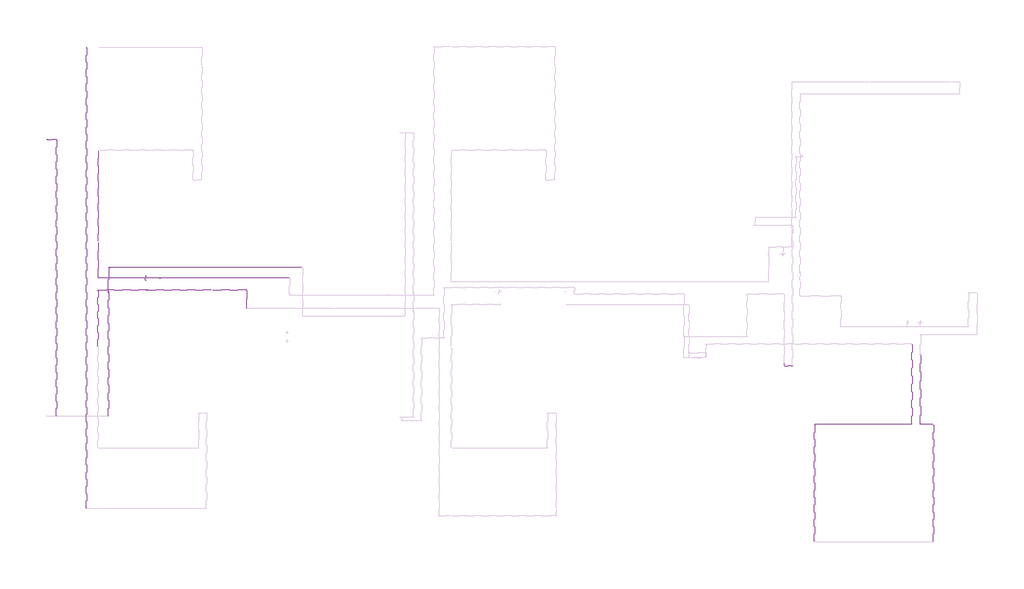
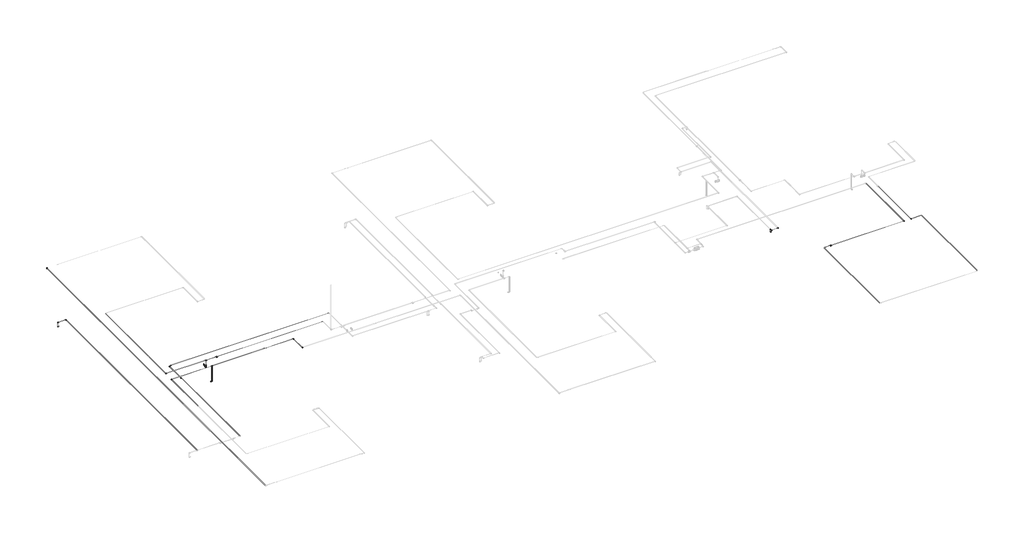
# One storey, part 2 of 6: 35 cable carrier segments, 23 cable carrier fittings, 3 alarms.
"""IFC4 building model written with IfcOpenShell, lengths in millimetres."""

from ifc_helpers import new_model, si_unit, point, frame, frame_2d, origin, place, context, project, spatial, circle_curve, trimmed, segment, composite_curve, outline, extrude, transform, mapped, element, save
from ifc_brep_helpers import plane_surface, cylinder_surface, advanced_brep
from components import alarm_4b7e8fd8, alarm_a2247946, cable_carrier_fitting_69f1a801, cable_carrier_fitting_8122f9af, cable_carrier_fitting_8fd13dfc

model = new_model("IFC4")

# Units and contexts
model_context = context("Model", 3, world=origin())
ifc_project = project(units=[si_unit("LENGTHUNIT", "METRE", prefix="MILLI")], contexts=[model_context])

# Site, building, storey
site = spatial("IfcSite", under=ifc_project)
building = spatial("IfcBuilding", under=site)
storey = spatial("IfcBuildingStorey", under=building, Name="Подвальный этаж", Elevation=-3000.0)

# Alarms
placement = place(None, origin())
alarm_shape = alarm_4b7e8fd8(model_context)
element("IfcAlarm", 1, ObjectType="RBZ_Оповещатель_Световой_Рубеж_ОПОП1-R3(грань) : ОПОП 1-R3 \"Выход\"", at=placement, inside=storey, context=model_context, shape_type="MappedRepresentation", body=[
    mapped(alarm_shape, transform((-31822.3240021, 5194.6370105, -700.0), x_axis=(0.0, -1.0, 0.0), y_axis=(0.0, 0.0, 1.0), z_axis=(-1.0, 0.0, 0.0))),
])
alarm_2_shape = alarm_a2247946(model_context)
element("IfcAlarm", 2, ObjectType="RBZ_ИзоляторШлейфа_Рубеж_ИЗ-1_прот.R3(плоскость) : ИЗ-1 прот.R3", at=placement, inside=storey, context=model_context, shape_type="MappedRepresentation", body=[
    mapped(alarm_2_shape, transform((-30952.3240021, 5194.6370105, -299.95), x_axis=(1.0, 0.0, 0.0), y_axis=(0.0, 1.0, 0.0), z_axis=(0.0, 0.0, 1.0))),
])
element("IfcAlarm", 3, ObjectType="RBZ_ИзоляторШлейфа_Рубеж_ИЗ-1_прот.R3(плоскость) : ИЗ-1 прот.R3", at=placement, inside=storey, context=model_context, shape_type="MappedRepresentation", body=[
    mapped(alarm_2_shape, transform((9645.1759979, -3775.3629895, -299.95), x_axis=(1.0, 0.0, 0.0), y_axis=(0.0, 1.0, 0.0), z_axis=(0.0, 0.0, 1.0))),
])

# Cable carrier fittings
cable_carrier_fitting_shape = cable_carrier_fitting_69f1a801(model_context)
element("IfcCableCarrierFitting", 4, ObjectType="ADSK_Поворот_Минимальный размер : Неспецифицируемый", at=placement, inside=storey, context=model_context, shape_type="MappedRepresentation", body=[
    mapped(cable_carrier_fitting_shape, transform((15115.1759979, -3775.3629895, -310.7), x_axis=(1.0, 0.0, 0.0), y_axis=(0.0, 1.0, 0.0), z_axis=(0.0, 0.0, 1.0))),
])
element("IfcCableCarrierFitting", 5, ObjectType="ADSK_Поворот_Минимальный размер : Неспецифицируемый", at=placement, inside=storey, context=model_context, shape_type="MappedRepresentation", body=[
    mapped(cable_carrier_fitting_shape, transform((15629.9732726, -3775.3629895, -310.7), x_axis=(0.0, -1.0, 0.0), y_axis=(1.0, 0.0, 0.0), z_axis=(0.0, 0.0, 1.0))),
])
element("IfcCableCarrierFitting", 6, ObjectType="ADSK_Поворот_Минимальный размер : Неспецифицируемый", at=placement, inside=storey, context=model_context, shape_type="MappedRepresentation", body=[
    mapped(cable_carrier_fitting_shape, transform((-25639.8240021, 4454.6370105, -310.7), x_axis=(0.0, 1.0, 0.0), y_axis=(-1.0, 0.0, 0.0), z_axis=(0.0, 0.0, 1.0))),
])
element("IfcCableCarrierFitting", 7, ObjectType="ADSK_Поворот_Минимальный размер : Неспецифицируемый", at=placement, inside=storey, context=model_context, shape_type="MappedRepresentation", body=[
    mapped(cable_carrier_fitting_shape, transform((-25639.8240021, 3324.6370105, -310.7), x_axis=(0.0, -1.0, 0.0), y_axis=(1.0, 0.0, 0.0), z_axis=(0.0, 0.0, 1.0))),
])
element("IfcCableCarrierFitting", 8, ObjectType="ADSK_Поворот_Минимальный размер : Неспецифицируемый", at=placement, inside=storey, context=model_context, shape_type="MappedRepresentation", body=[
    mapped(cable_carrier_fitting_shape, transform((-31725.1241965, 4454.6370105, -1500.0), x_axis=(1.0, 0.0, 0.0), y_axis=(0.0, 0.0, 1.0), z_axis=(0.0, -1.0, 0.0))),
])
element("IfcCableCarrierFitting", 9, ObjectType="ADSK_Поворот_Минимальный размер : Неспецифицируемый", at=placement, inside=storey, context=model_context, shape_type="MappedRepresentation", body=[
    mapped(cable_carrier_fitting_shape, transform((-34750.048085, 4454.6370105, -310.7), x_axis=(-1.0, 0.0, 0.0), y_axis=(0.0, -1.0, 0.0), z_axis=(0.0, 0.0, 1.0))),
])
element("IfcCableCarrierFitting", 10, ObjectType="ADSK_Поворот_Минимальный размер : Неспецифицируемый", at=placement, inside=storey, context=model_context, shape_type="MappedRepresentation", body=[
    mapped(cable_carrier_fitting_shape, transform((-35461.3240021, 19322.1370105, -310.7000447), x_axis=(-0.9999999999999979, 0.0, -6.54321978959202e-08), y_axis=(0.0, -1.0, 0.0), z_axis=(-6.54321978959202e-08, 0.0, 0.9999999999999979))),
])
element("IfcCableCarrierFitting", 11, ObjectType="ADSK_Поворот_Минимальный размер : Неспецифицируемый", at=placement, inside=storey, context=model_context, shape_type="MappedRepresentation", body=[
    mapped(cable_carrier_fitting_shape, transform((-34732.3240021, 5194.6370105, -310.7), x_axis=(0.0, -1.0, 0.0), y_axis=(1.0, 0.0, 0.0), z_axis=(0.0, 0.0, 1.0))),
])
element("IfcCableCarrierFitting", 12, ObjectType="ADSK_Поворот_Минимальный размер : Неспецифицируемый", at=placement, inside=storey, context=model_context, shape_type="MappedRepresentation", body=[
    mapped(cable_carrier_fitting_shape, transform((-31725.1241965, 5194.6370105, -700.0), x_axis=(1.0, 0.0, 0.0), y_axis=(0.0, 0.0, 1.0), z_axis=(0.0, -1.0, 0.0))),
])
element("IfcCableCarrierFitting", 13, ObjectType="ADSK_Поворот_Минимальный размер : Неспецифицируемый", at=placement, inside=storey, context=model_context, shape_type="MappedRepresentation", body=[
    mapped(cable_carrier_fitting_shape, transform((-37889.5238077, 13664.6370105, -655.9740066), x_axis=(-1.0, 0.0, 0.0), y_axis=(0.0, 0.0, 1.0), z_axis=(0.0, 1.0, 0.0))),
])
element("IfcCableCarrierFitting", 14, ObjectType="ADSK_Поворот_Минимальный размер : Неспецифицируемый", at=placement, inside=storey, context=model_context, shape_type="MappedRepresentation", body=[
    mapped(cable_carrier_fitting_shape, transform((-37889.5238077, 13664.6370105, -310.7), x_axis=(0.0, 0.0, 1.0), y_axis=(1.0, 0.0, 0.0), z_axis=(0.0, 1.0, 0.0))),
])
element("IfcCableCarrierFitting", 15, ObjectType="ADSK_Поворот_Минимальный размер : Неспецифицируемый", at=placement, inside=storey, context=model_context, shape_type="MappedRepresentation", body=[
    mapped(cable_carrier_fitting_shape, transform((-37292.3240021, 13664.6370105, -310.7), x_axis=(0.0, 1.0, 0.0), y_axis=(-1.0, 0.0, 0.0), z_axis=(0.0, 0.0, 1.0))),
])
element("IfcCableCarrierFitting", 16, ObjectType="ADSK_Поворот_Минимальный размер : Неспецифицируемый", at=placement, inside=storey, context=model_context, shape_type="MappedRepresentation", body=[
    mapped(cable_carrier_fitting_shape, transform((-34102.3240021, 5834.6370105, -350.0), x_axis=(-1.0, 0.0, 0.0), y_axis=(0.0, -1.0, 0.0), z_axis=(0.0, 0.0, 1.0))),
])
element("IfcCableCarrierFitting", 17, ObjectType="ADSK_Поворот_Минимальный размер : Неспецифицируемый", at=placement, inside=storey, context=model_context, shape_type="MappedRepresentation", body=[
    mapped(cable_carrier_fitting_shape, transform((7287.6759979, -78.1631839, -655.9740066), x_axis=(0.0, 1.0, 0.0), y_axis=(0.0, 0.0, 1.0), z_axis=(1.0, 0.0, 0.0))),
])
element("IfcCableCarrierFitting", 18, ObjectType="ADSK_Поворот_Минимальный размер : Неспецифицируемый", at=placement, inside=storey, context=model_context, shape_type="MappedRepresentation", body=[
    mapped(cable_carrier_fitting_shape, transform((7287.6759979, -78.1631839, -458.0), x_axis=(0.0, 0.0, 1.0), y_axis=(0.0, 1.0, 0.0), z_axis=(-1.0, 0.0, 0.0))),
])
element("IfcCableCarrierFitting", 19, ObjectType="ADSK_Поворот_Минимальный размер : Неспецифицируемый", at=placement, inside=storey, context=model_context, shape_type="MappedRepresentation", body=[
    mapped(cable_carrier_fitting_shape, transform((7287.6759979, -206.0144167, -458.0), x_axis=(0.0, 0.0, 1.0), y_axis=(1.0, 0.0, 0.0), z_axis=(0.0, 1.0, 0.0))),
])
element("IfcCableCarrierFitting", 20, ObjectType="ADSK_Поворот_Минимальный размер : Неспецифицируемый", at=placement, inside=storey, context=model_context, shape_type="MappedRepresentation", body=[
    mapped(cable_carrier_fitting_shape, transform((7787.6759979, -206.0144167, -458.0), x_axis=(1.0, 0.0, 0.0), y_axis=(0.0, 1.0, 0.0), z_axis=(0.0, 0.0, 1.0))),
])
cable_carrier_fitting_2_shape = cable_carrier_fitting_8122f9af(model_context)
element("IfcCableCarrierFitting", 21, ObjectType="ADSK_Поворот_Минимальный размер : Неспецифицируемый", at=placement, inside=storey, context=model_context, shape_type="MappedRepresentation", body=[
    mapped(cable_carrier_fitting_2_shape, transform((-34102.3240021, 4307.1370105, -310.7), x_axis=(0.0, 1.0, 0.0), y_axis=(0.0, 0.0, -1.0), z_axis=(-1.0, 0.0, 0.0))),
])
element("IfcCableCarrierFitting", 22, ObjectType="ADSK_Поворот_Минимальный размер : Неспецифицируемый", at=placement, inside=storey, context=model_context, shape_type="MappedRepresentation", body=[
    mapped(cable_carrier_fitting_2_shape, transform((-34102.3240021, 4346.4370105, -350.0), x_axis=(0.0, 0.7071067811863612, -0.707106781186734), y_axis=(0.0, 0.707106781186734, 0.7071067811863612), z_axis=(1.0, 0.0, 0.0))),
])
element("IfcCableCarrierFitting", 23, ObjectType="ADSK_Поворот_Минимальный размер : Неспецифицируемый", at=placement, inside=storey, context=model_context, shape_type="MappedRepresentation", body=[
    mapped(cable_carrier_fitting_2_shape, transform((-34050.2441965, 5834.6370105, -350.0), x_axis=(1.0, 0.0, 0.0), y_axis=(0.0, 0.0, 1.0), z_axis=(0.0, -1.0, 0.0))),
])
element("IfcCableCarrierFitting", 24, ObjectType="ADSK_Поворот_Минимальный размер : Неспецифицируемый", at=placement, inside=storey, context=model_context, shape_type="MappedRepresentation", body=[
    mapped(cable_carrier_fitting_2_shape, transform((-34010.9441965, 5834.6370105, -310.7), x_axis=(0.7071067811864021, 0.0, 0.707106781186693), y_axis=(0.707106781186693, 0.0, -0.7071067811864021), z_axis=(0.0, 1.0, 0.0))),
])
cable_carrier_fitting_3_shape = cable_carrier_fitting_8fd13dfc(model_context)
element("IfcCableCarrierFitting", 25, ObjectType="ADSK_Тройник : ПВХ", at=placement, inside=storey, context=model_context, shape_type="MappedRepresentation", body=[
    mapped(cable_carrier_fitting_3_shape, transform((-31725.1241965, 4454.6370105, -310.7), x_axis=(1.0, 0.0, 0.0), y_axis=(0.0, 0.0, 1.0), z_axis=(0.0, -1.0, 0.0))),
])
element("IfcCableCarrierFitting", 26, ObjectType="ADSK_Тройник : ПВХ", at=placement, inside=storey, context=model_context, shape_type="MappedRepresentation", body=[
    mapped(cable_carrier_fitting_3_shape, transform((-31725.1241965, 5194.6370105, -310.7), x_axis=(1.0, 0.0, 0.0), y_axis=(0.0, 0.0, 1.0), z_axis=(0.0, -1.0, 0.0))),
])

# Cable carrier segments
element("IfcCableCarrierSegment", 27, ObjectType="Гофрированная труба", at=placement, inside=storey, context=model_context, shape_type="SweptSolid", body=[
    extrude(outline(composite_curve([segment(trimmed(circle_curve(frame_2d((4454.6370105, -310.7)), 10.0), [point((4444.6370105, -310.7))], [point((4454.6370105, -300.7))], False, "CARTESIAN"), True, "CONTINUOUS"), segment(trimmed(circle_curve(frame_2d((4454.6370105, -310.7)), 10.0), [point((4454.6370105, -300.7))], [point((4464.6370105, -310.7))], False, "CARTESIAN"), True, "CONTINUOUS"), segment(trimmed(circle_curve(frame_2d((4454.6370105, -310.7)), 10.0), [point((4464.6370105, -310.7))], [point((4454.6370105, -320.7))], False, "CARTESIAN"), True, "CONTINUOUS"), segment(trimmed(circle_curve(frame_2d((4454.6370105, -310.7)), 10.0), [point((4454.6370105, -320.7))], [point((4444.6370105, -310.7))], False, "CARTESIAN"), True, "CONTINUOUS")], self_intersect=False)), frame((-34729.048085, 0.0, 0.0), z_axis=(1.0, 0.0, 0.0), x_axis=(0.0, 1.0, 0.0)), (0.0, 0.0, 1.0), 2973.9238885),
])
element("IfcCableCarrierSegment", 28, ObjectType="Гофрированная труба", at=placement, inside=storey, context=model_context, shape_type="SweptSolid", body=[
    extrude(outline(composite_curve([segment(trimmed(circle_curve(frame_2d((-310.7, -34750.048085)), 10.0), [point((-310.7, -34760.048085))], [point((-320.7, -34750.048085))], False, "CARTESIAN"), True, "CONTINUOUS"), segment(trimmed(circle_curve(frame_2d((-310.7, -34750.048085)), 10.0), [point((-320.7, -34750.048085))], [point((-310.7, -34740.048085))], False, "CARTESIAN"), True, "CONTINUOUS"), segment(trimmed(circle_curve(frame_2d((-310.7, -34750.048085)), 10.0), [point((-310.7, -34740.048085))], [point((-300.7, -34750.048085))], False, "CARTESIAN"), True, "CONTINUOUS"), segment(trimmed(circle_curve(frame_2d((-310.7, -34750.048085)), 10.0), [point((-300.7, -34750.048085))], [point((-310.7, -34760.048085))], False, "CARTESIAN"), True, "CONTINUOUS")], self_intersect=False)), frame((0.0, 991.1370105, 0.0), z_axis=(0.0, 1.0, 0.0), x_axis=(0.0, 0.0, 1.0)), (0.0, 0.0, 1.0), 3442.5),
])
element("IfcCableCarrierSegment", 29, ObjectType="Гофрированная труба", at=placement, inside=storey, context=model_context, shape_type="SweptSolid", body=[
    extrude(outline(composite_curve([segment(trimmed(circle_curve(frame_2d((-310.7, -34732.3240021)), 10.0), [point((-310.7, -34722.3240021))], [point((-300.7, -34732.3240021))], False, "CARTESIAN"), True, "CONTINUOUS"), segment(trimmed(circle_curve(frame_2d((-310.7, -34732.3240021)), 10.0), [point((-300.7, -34732.3240021))], [point((-310.7, -34742.3240021))], False, "CARTESIAN"), True, "CONTINUOUS"), segment(trimmed(circle_curve(frame_2d((-310.7, -34732.3240021)), 10.0), [point((-310.7, -34742.3240021))], [point((-320.7, -34732.3240021))], False, "CARTESIAN"), True, "CONTINUOUS"), segment(trimmed(circle_curve(frame_2d((-310.7, -34732.3240021)), 10.0), [point((-320.7, -34732.3240021))], [point((-310.7, -34722.3240021))], False, "CARTESIAN"), True, "CONTINUOUS")], self_intersect=False)), frame((0.0, 7459.1000551, 0.0), z_axis=(0.0, 1.0, 0.0), x_axis=(0.0, 0.0, 1.0)), (0.0, 0.0, 1.0), 5516.5369555),
])
element("IfcCableCarrierSegment", 30, ObjectType="Гофрированная труба", at=placement, inside=storey, context=model_context, shape_type="SweptSolid", body=[
    extrude(outline(composite_curve([segment(trimmed(circle_curve(frame_2d((-310.7, -34732.3240021)), 10.0), [point((-310.7, -34722.3240021))], [point((-300.7, -34732.3240021))], False, "CARTESIAN"), True, "CONTINUOUS"), segment(trimmed(circle_curve(frame_2d((-310.7, -34732.3240021)), 10.0), [point((-300.7, -34732.3240021))], [point((-310.7, -34742.3240021))], False, "CARTESIAN"), True, "CONTINUOUS"), segment(trimmed(circle_curve(frame_2d((-310.7, -34732.3240021)), 10.0), [point((-310.7, -34742.3240021))], [point((-320.7, -34732.3240021))], False, "CARTESIAN"), True, "CONTINUOUS"), segment(trimmed(circle_curve(frame_2d((-310.7, -34732.3240021)), 10.0), [point((-320.7, -34732.3240021))], [point((-310.7, -34722.3240021))], False, "CARTESIAN"), True, "CONTINUOUS")], self_intersect=False)), frame((0.0, 5215.6370105, 0.0), z_axis=(0.0, 1.0, 0.0), x_axis=(0.0, 0.0, 1.0)), (0.0, 0.0, 1.0), 2150.4630445),
])
element("IfcCableCarrierSegment", 31, ObjectType="Гофрированная труба", at=placement, inside=storey, context=model_context, shape_type="SweptSolid", body=[
    extrude(outline(composite_curve([segment(trimmed(circle_curve(frame_2d((5194.6370105, -310.7)), 10.0), [point((5204.6370105, -310.7))], [point((5194.6370105, -320.7))], False, "CARTESIAN"), True, "CONTINUOUS"), segment(trimmed(circle_curve(frame_2d((5194.6370105, -310.7)), 10.0), [point((5194.6370105, -320.7))], [point((5184.6370105, -310.7))], False, "CARTESIAN"), True, "CONTINUOUS"), segment(trimmed(circle_curve(frame_2d((5194.6370105, -310.7)), 10.0), [point((5184.6370105, -310.7))], [point((5194.6370105, -300.7))], False, "CARTESIAN"), True, "CONTINUOUS"), segment(trimmed(circle_curve(frame_2d((5194.6370105, -310.7)), 10.0), [point((5194.6370105, -300.7))], [point((5204.6370105, -310.7))], False, "CARTESIAN"), True, "CONTINUOUS")], self_intersect=False)), frame((-34711.3240021, 0.0, 0.0), z_axis=(1.0, 0.0, 0.0), x_axis=(0.0, 1.0, 0.0)), (0.0, 0.0, 1.0), 2956.1998056),
])
element("IfcCableCarrierSegment", 32, ObjectType="Гофрированная труба", at=placement, inside=storey, context=model_context, shape_type="SweptSolid", body=[
    extrude(outline(composite_curve([segment(trimmed(circle_curve(frame_2d((5194.6370105, -310.7)), 10.0), [point((5204.6370105, -310.7))], [point((5194.6370105, -320.7))], False, "CARTESIAN"), True, "CONTINUOUS"), segment(trimmed(circle_curve(frame_2d((5194.6370105, -310.7)), 10.0), [point((5194.6370105, -320.7))], [point((5184.6370105, -310.7))], False, "CARTESIAN"), True, "CONTINUOUS"), segment(trimmed(circle_curve(frame_2d((5194.6370105, -310.7)), 10.0), [point((5184.6370105, -310.7))], [point((5194.6370105, -300.7))], False, "CARTESIAN"), True, "CONTINUOUS"), segment(trimmed(circle_curve(frame_2d((5194.6370105, -310.7)), 10.0), [point((5194.6370105, -300.7))], [point((5204.6370105, -310.7))], False, "CARTESIAN"), True, "CONTINUOUS")], self_intersect=False)), frame((-30926.3240021, 0.0, 0.0), z_axis=(1.0, 0.0, 0.0), x_axis=(0.0, 1.0, 0.0)), (0.0, 0.0, 1.0), 7888.0),
])
element("IfcCableCarrierSegment", 33, ObjectType="Гофрированная труба", at=placement, inside=storey, context=model_context, shape_type="SweptSolid", body=[
    extrude(outline(composite_curve([segment(trimmed(circle_curve(frame_2d((-310.7, -25639.8240021)), 10.0), [point((-310.7, -25649.8240021))], [point((-320.7, -25639.8240021))], False, "CARTESIAN"), True, "CONTINUOUS"), segment(trimmed(circle_curve(frame_2d((-310.7, -25639.8240021)), 10.0), [point((-320.7, -25639.8240021))], [point((-310.7, -25629.8240021))], False, "CARTESIAN"), True, "CONTINUOUS"), segment(trimmed(circle_curve(frame_2d((-310.7, -25639.8240021)), 10.0), [point((-310.7, -25629.8240021))], [point((-300.7, -25639.8240021))], False, "CARTESIAN"), True, "CONTINUOUS"), segment(trimmed(circle_curve(frame_2d((-310.7, -25639.8240021)), 10.0), [point((-300.7, -25639.8240021))], [point((-310.7, -25649.8240021))], False, "CARTESIAN"), True, "CONTINUOUS")], self_intersect=False)), frame((0.0, 3345.6370105, 0.0), z_axis=(0.0, 1.0, 0.0), x_axis=(0.0, 0.0, 1.0)), (0.0, 0.0, 1.0), 1088.0),
])
element("IfcCableCarrierSegment", 34, ObjectType="Гофрированная труба", at=placement, inside=storey, context=model_context, shape_type="SweptSolid", body=[
    extrude(outline(composite_curve([segment(trimmed(circle_curve(frame_2d((4454.6370105, -310.7)), 10.0), [point((4464.6370105, -310.7))], [point((4454.6370105, -320.7))], False, "CARTESIAN"), True, "CONTINUOUS"), segment(trimmed(circle_curve(frame_2d((4454.6370105, -310.7)), 10.0), [point((4454.6370105, -320.7))], [point((4444.6370105, -310.7))], False, "CARTESIAN"), True, "CONTINUOUS"), segment(trimmed(circle_curve(frame_2d((4454.6370105, -310.7)), 10.0), [point((4444.6370105, -310.7))], [point((4454.6370105, -300.7))], False, "CARTESIAN"), True, "CONTINUOUS"), segment(trimmed(circle_curve(frame_2d((4454.6370105, -310.7)), 10.0), [point((4454.6370105, -300.7))], [point((4464.6370105, -310.7))], False, "CARTESIAN"), True, "CONTINUOUS")], self_intersect=False)), frame((-27715.7740021, 0.0, 0.0), z_axis=(1.0, 0.0, 0.0), x_axis=(0.0, 1.0, 0.0)), (0.0, 0.0, 1.0), 2054.95),
])
element("IfcCableCarrierSegment", 35, ObjectType="Гофрированная труба", at=placement, inside=storey, context=model_context, shape_type="SweptSolid", body=[
    extrude(outline(composite_curve([segment(trimmed(circle_curve(frame_2d((-3775.3629895, -310.7)), 10.0), [point((-3765.3629895, -310.7))], [point((-3775.3629895, -320.7))], False, "CARTESIAN"), True, "CONTINUOUS"), segment(trimmed(circle_curve(frame_2d((-3775.3629895, -310.7)), 10.0), [point((-3775.3629895, -320.7))], [point((-3785.3629895, -310.7))], False, "CARTESIAN"), True, "CONTINUOUS"), segment(trimmed(circle_curve(frame_2d((-3775.3629895, -310.7)), 10.0), [point((-3785.3629895, -310.7))], [point((-3775.3629895, -300.7))], False, "CARTESIAN"), True, "CONTINUOUS"), segment(trimmed(circle_curve(frame_2d((-3775.3629895, -310.7)), 10.0), [point((-3775.3629895, -300.7))], [point((-3765.3629895, -310.7))], False, "CARTESIAN"), True, "CONTINUOUS")], self_intersect=False)), frame((9194.1759979, 0.0, 0.0), z_axis=(1.0, 0.0, 0.0), x_axis=(0.0, 1.0, 0.0)), (0.0, 0.0, 1.0), 425.0),
])
element("IfcCableCarrierSegment", 36, ObjectType="Гофрированная труба", at=placement, inside=storey, context=model_context, shape_type="SweptSolid", body=[
    extrude(outline(composite_curve([segment(trimmed(circle_curve(frame_2d((-3775.3629895, -310.7)), 10.0), [point((-3785.3629895, -310.7))], [point((-3775.3629895, -300.7))], False, "CARTESIAN"), True, "CONTINUOUS"), segment(trimmed(circle_curve(frame_2d((-3775.3629895, -310.7)), 10.0), [point((-3775.3629895, -300.7))], [point((-3765.3629895, -310.7))], False, "CARTESIAN"), True, "CONTINUOUS"), segment(trimmed(circle_curve(frame_2d((-3775.3629895, -310.7)), 10.0), [point((-3765.3629895, -310.7))], [point((-3775.3629895, -320.7))], False, "CARTESIAN"), True, "CONTINUOUS"), segment(trimmed(circle_curve(frame_2d((-3775.3629895, -310.7)), 10.0), [point((-3775.3629895, -320.7))], [point((-3785.3629895, -310.7))], False, "CARTESIAN"), True, "CONTINUOUS")], self_intersect=False)), frame((9671.1759979, 0.0, 0.0), z_axis=(1.0, 0.0, 0.0), x_axis=(0.0, 1.0, 0.0)), (0.0, 0.0, 1.0), 5423.0),
])
element("IfcCableCarrierSegment", 37, ObjectType="Гофрированная труба", at=placement, inside=storey, context=model_context, shape_type="SweptSolid", body=[
    extrude(outline(composite_curve([segment(trimmed(circle_curve(frame_2d((-310.7, 15115.1759979)), 10.0), [point((-310.7, 15125.1759979))], [point((-300.7, 15115.1759979))], False, "CARTESIAN"), True, "CONTINUOUS"), segment(trimmed(circle_curve(frame_2d((-310.7, 15115.1759979)), 10.0), [point((-300.7, 15115.1759979))], [point((-310.7, 15105.1759979))], False, "CARTESIAN"), True, "CONTINUOUS"), segment(trimmed(circle_curve(frame_2d((-310.7, 15115.1759979)), 10.0), [point((-310.7, 15105.1759979))], [point((-320.7, 15115.1759979))], False, "CARTESIAN"), True, "CONTINUOUS"), segment(trimmed(circle_curve(frame_2d((-310.7, 15115.1759979)), 10.0), [point((-320.7, 15115.1759979))], [point((-310.7, 15125.1759979))], False, "CARTESIAN"), True, "CONTINUOUS")], self_intersect=False)), frame((0.0, -3754.3629895, 0.0), z_axis=(0.0, 1.0, 0.0), x_axis=(0.0, 0.0, 1.0)), (0.0, 0.0, 1.0), 4878.0),
])
element("IfcCableCarrierSegment", 38, ObjectType="Гофрированная труба", at=placement, inside=storey, context=model_context, shape_type="SweptSolid", body=[
    extrude(outline(composite_curve([segment(trimmed(circle_curve(frame_2d((-310.7, 9147.6759979)), 10.0), [point((-310.7, 9157.6759979))], [point((-300.7, 9147.6759979))], False, "CARTESIAN"), True, "CONTINUOUS"), segment(trimmed(circle_curve(frame_2d((-310.7, 9147.6759979)), 10.0), [point((-300.7, 9147.6759979))], [point((-310.7, 9137.6759979))], False, "CARTESIAN"), True, "CONTINUOUS"), segment(trimmed(circle_curve(frame_2d((-310.7, 9147.6759979)), 10.0), [point((-310.7, 9137.6759979))], [point((-320.7, 9147.6759979))], False, "CARTESIAN"), True, "CONTINUOUS"), segment(trimmed(circle_curve(frame_2d((-310.7, 9147.6759979)), 10.0), [point((-320.7, 9147.6759979))], [point((-310.7, 9157.6759979))], False, "CARTESIAN"), True, "CONTINUOUS")], self_intersect=False)), frame((0.0, -10948.8629895, 0.0), z_axis=(0.0, 1.0, 0.0), x_axis=(0.0, 0.0, 1.0)), (0.0, 0.0, 1.0), 7127.0),
])
element("IfcCableCarrierSegment", 39, ObjectType="Гофрированная труба", at=placement, inside=storey, context=model_context, shape_type="SweptSolid", body=[
    extrude(outline(composite_curve([segment(trimmed(circle_curve(frame_2d((-310.7, 16427.6759979)), 10.0), [point((-310.7, 16417.6759979))], [point((-320.7, 16427.6759979))], False, "CARTESIAN"), True, "CONTINUOUS"), segment(trimmed(circle_curve(frame_2d((-310.7, 16427.6759979)), 10.0), [point((-320.7, 16427.6759979))], [point((-310.7, 16437.6759979))], False, "CARTESIAN"), True, "CONTINUOUS"), segment(trimmed(circle_curve(frame_2d((-310.7, 16427.6759979)), 10.0), [point((-310.7, 16437.6759979))], [point((-300.7, 16427.6759979))], False, "CARTESIAN"), True, "CONTINUOUS"), segment(trimmed(circle_curve(frame_2d((-310.7, 16427.6759979)), 10.0), [point((-300.7, 16427.6759979))], [point((-310.7, 16417.6759979))], False, "CARTESIAN"), True, "CONTINUOUS")], self_intersect=False)), frame((0.0, -10948.8629895, 0.0), z_axis=(0.0, 1.0, 0.0), x_axis=(0.0, 0.0, 1.0)), (0.0, 0.0, 1.0), 7127.0),
])
element("IfcCableCarrierSegment", 40, ObjectType="Гофрированная труба", at=placement, inside=storey, context=model_context, shape_type="SweptSolid", body=[
    extrude(outline(composite_curve([segment(trimmed(circle_curve(frame_2d((-3775.3629895, -310.7)), 10.0), [point((-3765.3629895, -310.7))], [point((-3775.3629895, -320.7))], False, "CARTESIAN"), True, "CONTINUOUS"), segment(trimmed(circle_curve(frame_2d((-3775.3629895, -310.7)), 10.0), [point((-3775.3629895, -320.7))], [point((-3785.3629895, -310.7))], False, "CARTESIAN"), True, "CONTINUOUS"), segment(trimmed(circle_curve(frame_2d((-3775.3629895, -310.7)), 10.0), [point((-3785.3629895, -310.7))], [point((-3775.3629895, -300.7))], False, "CARTESIAN"), True, "CONTINUOUS"), segment(trimmed(circle_curve(frame_2d((-3775.3629895, -310.7)), 10.0), [point((-3775.3629895, -300.7))], [point((-3765.3629895, -310.7))], False, "CARTESIAN"), True, "CONTINUOUS")], self_intersect=False)), frame((15650.9732726, 0.0, 0.0), z_axis=(1.0, 0.0, 0.0), x_axis=(0.0, 1.0, 0.0)), (0.0, 0.0, 1.0), 730.2027253),
])
element("IfcCableCarrierSegment", 41, ObjectType="Гофрированная труба", at=placement, inside=storey, context=model_context, shape_type="SweptSolid", body=[
    extrude(outline(composite_curve([segment(trimmed(circle_curve(frame_2d((-310.7, 15629.9732726)), 10.0), [point((-310.7, 15639.9732726))], [point((-300.7, 15629.9732726))], False, "CARTESIAN"), True, "CONTINUOUS"), segment(trimmed(circle_curve(frame_2d((-310.7, 15629.9732726)), 10.0), [point((-300.7, 15629.9732726))], [point((-310.7, 15619.9732726))], False, "CARTESIAN"), True, "CONTINUOUS"), segment(trimmed(circle_curve(frame_2d((-310.7, 15629.9732726)), 10.0), [point((-310.7, 15619.9732726))], [point((-320.7, 15629.9732726))], False, "CARTESIAN"), True, "CONTINUOUS"), segment(trimmed(circle_curve(frame_2d((-310.7, 15629.9732726)), 10.0), [point((-320.7, 15629.9732726))], [point((-310.7, 15639.9732726))], False, "CARTESIAN"), True, "CONTINUOUS")], self_intersect=False)), frame((0.0, -3754.3629895, 0.0), z_axis=(0.0, 1.0, 0.0), x_axis=(0.0, 0.0, 1.0)), (0.0, 0.0, 1.0), 4223.0),
])
element("IfcCableCarrierSegment", 42, ObjectType="Гофрированная труба", at=placement, inside=storey, context=model_context, shape_type="SweptSolid", body=[
    extrude(outline(composite_curve([segment(trimmed(circle_curve(frame_2d((4454.6370105, -1500.0)), 10.0), [point((4444.6370105, -1500.0))], [point((4454.6370105, -1490.0))], False, "CARTESIAN"), True, "CONTINUOUS"), segment(trimmed(circle_curve(frame_2d((4454.6370105, -1500.0)), 10.0), [point((4454.6370105, -1490.0))], [point((4464.6370105, -1500.0))], False, "CARTESIAN"), True, "CONTINUOUS"), segment(trimmed(circle_curve(frame_2d((4454.6370105, -1500.0)), 10.0), [point((4464.6370105, -1500.0))], [point((4454.6370105, -1510.0))], False, "CARTESIAN"), True, "CONTINUOUS"), segment(trimmed(circle_curve(frame_2d((4454.6370105, -1500.0)), 10.0), [point((4454.6370105, -1510.0))], [point((4444.6370105, -1500.0))], False, "CARTESIAN"), True, "CONTINUOUS")], self_intersect=False)), frame((-31822.3240021, 0.0, 0.0), z_axis=(1.0, 0.0, 0.0), x_axis=(0.0, 1.0, 0.0)), (0.0, 0.0, 1.0), 76.1998056),
])
element("IfcCableCarrierSegment", 43, ObjectType="Гофрированная труба", at=placement, inside=storey, context=model_context, shape_type="SweptSolid", body=[
    extrude(outline(composite_curve([segment(trimmed(circle_curve(frame_2d((-31725.1241965, 4454.6370105)), 10.0), [point((-31735.1241965, 4454.6370105))], [point((-31725.1241965, 4464.6370105))], False, "CARTESIAN"), True, "CONTINUOUS"), segment(trimmed(circle_curve(frame_2d((-31725.1241965, 4454.6370105)), 10.0), [point((-31725.1241965, 4464.6370105))], [point((-31715.1241965, 4454.6370105))], False, "CARTESIAN"), True, "CONTINUOUS"), segment(trimmed(circle_curve(frame_2d((-31725.1241965, 4454.6370105)), 10.0), [point((-31715.1241965, 4454.6370105))], [point((-31725.1241965, 4444.6370105))], False, "CARTESIAN"), True, "CONTINUOUS"), segment(trimmed(circle_curve(frame_2d((-31725.1241965, 4454.6370105)), 10.0), [point((-31725.1241965, 4444.6370105))], [point((-31735.1241965, 4454.6370105))], False, "CARTESIAN"), True, "CONTINUOUS")], self_intersect=False)), frame((0.0, 0.0, -1479.0), z_axis=(0.0, 0.0, 1.0), x_axis=(1.0, 0.0, 0.0)), (0.0, 0.0, 1.0), 1138.3),
])
element("IfcCableCarrierSegment", 44, ObjectType="Гофрированная труба", at=placement, inside=storey, context=model_context, shape_type="SweptSolid", body=[
    extrude(outline(composite_curve([segment(trimmed(circle_curve(frame_2d((4454.6370105, -310.7)), 10.0), [point((4464.6370105, -310.7))], [point((4454.6370105, -320.7))], False, "CARTESIAN"), True, "CONTINUOUS"), segment(trimmed(circle_curve(frame_2d((4454.6370105, -310.7)), 10.0), [point((4454.6370105, -320.7))], [point((4444.6370105, -310.7))], False, "CARTESIAN"), True, "CONTINUOUS"), segment(trimmed(circle_curve(frame_2d((4454.6370105, -310.7)), 10.0), [point((4444.6370105, -310.7))], [point((4454.6370105, -300.7))], False, "CARTESIAN"), True, "CONTINUOUS"), segment(trimmed(circle_curve(frame_2d((4454.6370105, -310.7)), 10.0), [point((4454.6370105, -300.7))], [point((4464.6370105, -310.7))], False, "CARTESIAN"), True, "CONTINUOUS")], self_intersect=False)), frame((-31695.1241965, 0.0, 0.0), z_axis=(1.0, 0.0, 0.0), x_axis=(0.0, 1.0, 0.0)), (0.0, 0.0, 1.0), 3886.3501944),
])
element("IfcCableCarrierSegment", 45, ObjectType="Гофрированная труба", at=placement, inside=storey, context=model_context, shape_type="AdvancedBrep", body=[
    advanced_brep(
    [(-35471.3240021, 19301.1370105, -310.7000447), (-35461.3240021, 19301.1370105, -300.7000447), (-35451.3240021, 19301.1370105, -310.7000447), (-35461.3240021, 19301.1370105, -320.7000447), (-35471.3240021, -8924.3629895, -310.6999979), (-35461.3240021, -8924.3629895, -320.6999979), (-35451.3240021, -8924.3629895, -310.6999979), (-35461.3240021, -8924.3629895, -300.6999979)],
    [
        (0, 1, circle_curve(frame((-35461.3240021, 19301.1370105, -310.7000447), z_axis=(0.0, 1.0, 0.0), x_axis=(-1.0, 0.0, 0.0)), 10.0)),
        (1, 2, circle_curve(frame((-35461.3240021, 19301.1370105, -310.7000447), z_axis=(0.0, 1.0, 0.0), x_axis=(-1.0, 0.0, 0.0)), 10.0)),
        (2, 3, circle_curve(frame((-35461.3240021, 19301.1370105, -310.7000447), z_axis=(0.0, 1.0, 0.0), x_axis=(-1.0, 0.0, 0.0)), 10.0)),
        (3, 0, circle_curve(frame((-35461.3240021, 19301.1370105, -310.7000447), z_axis=(0.0, 1.0, 0.0), x_axis=(-1.0, 0.0, 0.0)), 10.0)),
        (4, 5, circle_curve(frame((-35461.3240021, -8924.3629895, -310.7000447), z_axis=(0.0, -1.0, 0.0), x_axis=(-1.0, 0.0, 0.0)), 10.0)),
        (5, 6, circle_curve(frame((-35461.3240021, -8924.3629895, -310.7000447), z_axis=(0.0, -1.0, 0.0), x_axis=(-1.0, 0.0, 0.0)), 9.9999532)),
        (6, 7, circle_curve(frame((-35461.3240021, -8924.3629895, -310.7000447), z_axis=(0.0, -1.0, 0.0), x_axis=(-1.0, 0.0, 0.0)), 10.0)),
        (7, 4, circle_curve(frame((-35461.3240021, -8924.3629895, -310.7000447), z_axis=(0.0, -1.0, 0.0), x_axis=(-1.0, 0.0, 0.0)), 10.0000468)),
        (0, 4),
        (7, 1),
        (6, 2),
        (5, 3),
    ],
    [
        plane_surface(frame((-35471.3240021, 19301.1370105, -310.7000447), z_axis=(0.0, 1.0, -1.6565024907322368e-09), x_axis=(0.0, -1.6565024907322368e-09, -1.0))),
        plane_surface(frame((-35471.3240021, -8924.3629895, -310.6999979), z_axis=(0.0, -1.0, 1.656498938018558e-09), x_axis=(0.0, -1.656498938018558e-09, -1.0))),
        cylinder_surface(frame((-35461.3240021, 19301.1370105, -310.7000447), z_axis=(0.0, 1.0, 0.0), x_axis=(-1.0, 0.0, 0.0)), 10.0),
    ],
    [
        (0, [[1, 2, 3, 4]]),
        (1, [[5, 6, 7, 8]]),
        (2, [[-1, 9, -8, 10]]),
        (2, [[-2, -10, -7, 11]]),
        (2, [[-3, -11, -6, 12]]),
        (2, [[-4, -12, -5, -9]]),
    ],
),
])
element("IfcCableCarrierSegment", 46, ObjectType="Гофрированная труба", at=placement, inside=storey, context=model_context, shape_type="SweptSolid", body=[
    extrude(outline(composite_curve([segment(trimmed(circle_curve(frame_2d((5194.6370105, -700.0)), 10.0), [point((5184.6370105, -700.0))], [point((5194.6370105, -690.0))], False, "CARTESIAN"), True, "CONTINUOUS"), segment(trimmed(circle_curve(frame_2d((5194.6370105, -700.0)), 10.0), [point((5194.6370105, -690.0))], [point((5204.6370105, -700.0))], False, "CARTESIAN"), True, "CONTINUOUS"), segment(trimmed(circle_curve(frame_2d((5194.6370105, -700.0)), 10.0), [point((5204.6370105, -700.0))], [point((5194.6370105, -710.0))], False, "CARTESIAN"), True, "CONTINUOUS"), segment(trimmed(circle_curve(frame_2d((5194.6370105, -700.0)), 10.0), [point((5194.6370105, -710.0))], [point((5184.6370105, -700.0))], False, "CARTESIAN"), True, "CONTINUOUS")], self_intersect=False)), frame((-31822.3240021, 0.0, 0.0), z_axis=(1.0, 0.0, 0.0), x_axis=(0.0, 1.0, 0.0)), (0.0, 0.0, 1.0), 76.1998056),
])
element("IfcCableCarrierSegment", 47, ObjectType="Гофрированная труба", at=placement, inside=storey, context=model_context, shape_type="SweptSolid", body=[
    extrude(outline(composite_curve([segment(trimmed(circle_curve(frame_2d((-31725.1241965, 5194.6370105)), 10.0), [point((-31735.1241965, 5194.6370105))], [point((-31725.1241965, 5204.6370105))], False, "CARTESIAN"), True, "CONTINUOUS"), segment(trimmed(circle_curve(frame_2d((-31725.1241965, 5194.6370105)), 10.0), [point((-31725.1241965, 5204.6370105))], [point((-31715.1241965, 5194.6370105))], False, "CARTESIAN"), True, "CONTINUOUS"), segment(trimmed(circle_curve(frame_2d((-31725.1241965, 5194.6370105)), 10.0), [point((-31715.1241965, 5194.6370105))], [point((-31725.1241965, 5184.6370105))], False, "CARTESIAN"), True, "CONTINUOUS"), segment(trimmed(circle_curve(frame_2d((-31725.1241965, 5194.6370105)), 10.0), [point((-31725.1241965, 5184.6370105))], [point((-31735.1241965, 5194.6370105))], False, "CARTESIAN"), True, "CONTINUOUS")], self_intersect=False)), frame((0.0, 0.0, -679.0), z_axis=(0.0, 0.0, 1.0), x_axis=(1.0, 0.0, 0.0)), (0.0, 0.0, 1.0), 338.3),
])
element("IfcCableCarrierSegment", 48, ObjectType="Гофрированная труба", at=placement, inside=storey, context=model_context, shape_type="SweptSolid", body=[
    extrude(outline(composite_curve([segment(trimmed(circle_curve(frame_2d((5194.6370105, -310.7)), 10.0), [point((5204.6370105, -310.7))], [point((5194.6370105, -320.7))], False, "CARTESIAN"), True, "CONTINUOUS"), segment(trimmed(circle_curve(frame_2d((5194.6370105, -310.7)), 10.0), [point((5194.6370105, -320.7))], [point((5184.6370105, -310.7))], False, "CARTESIAN"), True, "CONTINUOUS"), segment(trimmed(circle_curve(frame_2d((5194.6370105, -310.7)), 10.0), [point((5184.6370105, -310.7))], [point((5194.6370105, -300.7))], False, "CARTESIAN"), True, "CONTINUOUS"), segment(trimmed(circle_curve(frame_2d((5194.6370105, -310.7)), 10.0), [point((5194.6370105, -300.7))], [point((5204.6370105, -310.7))], False, "CARTESIAN"), True, "CONTINUOUS")], self_intersect=False)), frame((-31695.1241965, 0.0, 0.0), z_axis=(1.0, 0.0, 0.0), x_axis=(0.0, 1.0, 0.0)), (0.0, 0.0, 1.0), 716.8001944),
])
element("IfcCableCarrierSegment", 49, ObjectType="Гофрированная труба", at=placement, inside=storey, context=model_context, shape_type="SweptSolid", body=[
    extrude(outline(composite_curve([segment(trimmed(circle_curve(frame_2d((13664.6370105, -310.7)), 10.0), [point((13674.6370105, -310.7))], [point((13664.6370105, -320.7))], False, "CARTESIAN"), True, "CONTINUOUS"), segment(trimmed(circle_curve(frame_2d((13664.6370105, -310.7)), 10.0), [point((13664.6370105, -320.7))], [point((13654.6370105, -310.7))], False, "CARTESIAN"), True, "CONTINUOUS"), segment(trimmed(circle_curve(frame_2d((13664.6370105, -310.7)), 10.0), [point((13654.6370105, -310.7))], [point((13664.6370105, -300.7))], False, "CARTESIAN"), True, "CONTINUOUS"), segment(trimmed(circle_curve(frame_2d((13664.6370105, -310.7)), 10.0), [point((13664.6370105, -300.7))], [point((13674.6370105, -310.7))], False, "CARTESIAN"), True, "CONTINUOUS")], self_intersect=False)), frame((-37868.5238077, 0.0, 0.0), z_axis=(1.0, 0.0, 0.0), x_axis=(0.0, 1.0, 0.0)), (0.0, 0.0, 1.0), 555.1998056),
])
element("IfcCableCarrierSegment", 50, ObjectType="Гофрированная труба", at=placement, inside=storey, context=model_context, shape_type="SweptSolid", body=[
    extrude(outline(composite_curve([segment(trimmed(circle_curve(frame_2d((13664.6370105, -655.9740066)), 10.0), [point((13674.6370105, -655.9740066))], [point((13664.6370105, -665.9740066))], False, "CARTESIAN"), True, "CONTINUOUS"), segment(trimmed(circle_curve(frame_2d((13664.6370105, -655.9740066)), 10.0), [point((13664.6370105, -665.9740066))], [point((13654.6370105, -655.9740066))], False, "CARTESIAN"), True, "CONTINUOUS"), segment(trimmed(circle_curve(frame_2d((13664.6370105, -655.9740066)), 10.0), [point((13654.6370105, -655.9740066))], [point((13664.6370105, -645.9740066))], False, "CARTESIAN"), True, "CONTINUOUS"), segment(trimmed(circle_curve(frame_2d((13664.6370105, -655.9740066)), 10.0), [point((13664.6370105, -645.9740066))], [point((13674.6370105, -655.9740066))], False, "CARTESIAN"), True, "CONTINUOUS")], self_intersect=False)), frame((-37868.5238077, 0.0, 0.0), z_axis=(1.0, 0.0, 0.0), x_axis=(0.0, 1.0, 0.0)), (0.0, 0.0, 1.0), 76.1998056),
])
element("IfcCableCarrierSegment", 51, ObjectType="Гофрированная труба", at=placement, inside=storey, context=model_context, shape_type="SweptSolid", body=[
    extrude(outline(composite_curve([segment(trimmed(circle_curve(frame_2d((-37889.5238077, 13664.6370105)), 10.0), [point((-37899.5238077, 13664.6370105))], [point((-37889.5238077, 13674.6370105))], False, "CARTESIAN"), True, "CONTINUOUS"), segment(trimmed(circle_curve(frame_2d((-37889.5238077, 13664.6370105)), 10.0), [point((-37889.5238077, 13674.6370105))], [point((-37879.5238077, 13664.6370105))], False, "CARTESIAN"), True, "CONTINUOUS"), segment(trimmed(circle_curve(frame_2d((-37889.5238077, 13664.6370105)), 10.0), [point((-37879.5238077, 13664.6370105))], [point((-37889.5238077, 13654.6370105))], False, "CARTESIAN"), True, "CONTINUOUS"), segment(trimmed(circle_curve(frame_2d((-37889.5238077, 13664.6370105)), 10.0), [point((-37889.5238077, 13654.6370105))], [point((-37899.5238077, 13664.6370105))], False, "CARTESIAN"), True, "CONTINUOUS")], self_intersect=False)), frame((0.0, 0.0, -634.9740066), z_axis=(0.0, 0.0, 1.0), x_axis=(1.0, 0.0, 0.0)), (0.0, 0.0, 1.0), 303.2740066),
])
element("IfcCableCarrierSegment", 52, ObjectType="Гофрированная труба", at=placement, inside=storey, context=model_context, shape_type="SweptSolid", body=[
    extrude(outline(composite_curve([segment(trimmed(circle_curve(frame_2d((-310.7, -37292.3240021)), 10.0), [point((-310.7, -37302.3240021))], [point((-320.7, -37292.3240021))], False, "CARTESIAN"), True, "CONTINUOUS"), segment(trimmed(circle_curve(frame_2d((-310.7, -37292.3240021)), 10.0), [point((-320.7, -37292.3240021))], [point((-310.7, -37282.3240021))], False, "CARTESIAN"), True, "CONTINUOUS"), segment(trimmed(circle_curve(frame_2d((-310.7, -37292.3240021)), 10.0), [point((-310.7, -37282.3240021))], [point((-300.7, -37292.3240021))], False, "CARTESIAN"), True, "CONTINUOUS"), segment(trimmed(circle_curve(frame_2d((-310.7, -37292.3240021)), 10.0), [point((-300.7, -37292.3240021))], [point((-310.7, -37302.3240021))], False, "CARTESIAN"), True, "CONTINUOUS")], self_intersect=False)), frame((0.0, -3262.8629895, 0.0), z_axis=(0.0, 1.0, 0.0), x_axis=(0.0, 0.0, 1.0)), (0.0, 0.0, 1.0), 16906.5),
])
element("IfcCableCarrierSegment", 53, ObjectType="Гофрированная труба", at=placement, inside=storey, context=model_context, shape_type="SweptSolid", body=[
    extrude(outline(composite_curve([segment(trimmed(circle_curve(frame_2d((-310.7, -34102.3240021)), 10.0), [point((-310.7, -34092.3240021))], [point((-300.7, -34102.3240021))], False, "CARTESIAN"), True, "CONTINUOUS"), segment(trimmed(circle_curve(frame_2d((-310.7, -34102.3240021)), 10.0), [point((-300.7, -34102.3240021))], [point((-310.7, -34112.3240021))], False, "CARTESIAN"), True, "CONTINUOUS"), segment(trimmed(circle_curve(frame_2d((-310.7, -34102.3240021)), 10.0), [point((-310.7, -34112.3240021))], [point((-320.7, -34102.3240021))], False, "CARTESIAN"), True, "CONTINUOUS"), segment(trimmed(circle_curve(frame_2d((-310.7, -34102.3240021)), 10.0), [point((-320.7, -34102.3240021))], [point((-310.7, -34092.3240021))], False, "CARTESIAN"), True, "CONTINUOUS")], self_intersect=False)), frame((0.0, -3271.8629895, 0.0), z_axis=(0.0, 1.0, 0.0), x_axis=(0.0, 0.0, 1.0)), (0.0, 0.0, 1.0), 7569.7157288),
])
element("IfcCableCarrierSegment", 54, ObjectType="Гофрированная труба", at=placement, inside=storey, context=model_context, shape_type="SweptSolid", body=[
    extrude(outline(composite_curve([segment(trimmed(circle_curve(frame_2d((-350.0, -34102.3240021)), 10.0), [point((-350.0, -34092.3240021))], [point((-340.0, -34102.3240021))], False, "CARTESIAN"), True, "CONTINUOUS"), segment(trimmed(circle_curve(frame_2d((-350.0, -34102.3240021)), 10.0), [point((-340.0, -34102.3240021))], [point((-350.0, -34112.3240021))], False, "CARTESIAN"), True, "CONTINUOUS"), segment(trimmed(circle_curve(frame_2d((-350.0, -34102.3240021)), 10.0), [point((-350.0, -34112.3240021))], [point((-360.0, -34102.3240021))], False, "CARTESIAN"), True, "CONTINUOUS"), segment(trimmed(circle_curve(frame_2d((-350.0, -34102.3240021)), 10.0), [point((-360.0, -34102.3240021))], [point((-350.0, -34092.3240021))], False, "CARTESIAN"), True, "CONTINUOUS")], self_intersect=False)), frame((0.0, 4355.7212818, 0.0), z_axis=(0.0, 1.0, 0.0), x_axis=(0.0, 0.0, 1.0)), (0.0, 0.0, 1.0), 1457.9157288),
])
element("IfcCableCarrierSegment", 55, ObjectType="Гофрированная труба", at=placement, inside=storey, context=model_context, shape_type="SweptSolid", body=[
    extrude(outline(composite_curve([segment(trimmed(circle_curve(frame_2d((0.0, -10.0)), 10.0), [point((10.0, -10.0))], [point((0.0, -20.0))], False, "CARTESIAN"), True, "CONTINUOUS"), segment(trimmed(circle_curve(frame_2d((0.0, -10.0)), 10.0), [point((0.0, -20.0))], [point((-10.0, -10.0))], False, "CARTESIAN"), True, "CONTINUOUS"), segment(trimmed(circle_curve(frame_2d((0.0, -10.0)), 10.0), [point((-10.0, -10.0))], [point((0.0, 0.0))], False, "CARTESIAN"), True, "CONTINUOUS"), segment(trimmed(circle_curve(frame_2d((0.0, -10.0)), 10.0), [point((0.0, 0.0))], [point((10.0, -10.0))], False, "CARTESIAN"), True, "CONTINUOUS")], self_intersect=False)), frame((-34102.3240021, 4346.9431072, -336.363961), z_axis=(0.0, -0.7071067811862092, 0.707106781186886), x_axis=(1.0, 0.0, 0.0)), (0.0, 0.0, 1.0), 37.0100505),
])
element("IfcCableCarrierSegment", 56, ObjectType="Гофрированная труба", at=placement, inside=storey, context=model_context, shape_type="SweptSolid", body=[
    extrude(outline(composite_curve([segment(trimmed(circle_curve(frame_2d((5834.6370105, -310.7)), 10.0), [point((5824.6370105, -310.7))], [point((5834.6370105, -300.7))], False, "CARTESIAN"), True, "CONTINUOUS"), segment(trimmed(circle_curve(frame_2d((5834.6370105, -310.7)), 10.0), [point((5834.6370105, -300.7))], [point((5844.6370105, -310.7))], False, "CARTESIAN"), True, "CONTINUOUS"), segment(trimmed(circle_curve(frame_2d((5834.6370105, -310.7)), 10.0), [point((5844.6370105, -310.7))], [point((5834.6370105, -320.7))], False, "CARTESIAN"), True, "CONTINUOUS"), segment(trimmed(circle_curve(frame_2d((5834.6370105, -310.7)), 10.0), [point((5834.6370105, -320.7))], [point((5824.6370105, -310.7))], False, "CARTESIAN"), True, "CONTINUOUS")], self_intersect=False)), frame((-34001.6599253, 0.0, 0.0), z_axis=(1.0, 0.0, 0.0), x_axis=(0.0, 1.0, 0.0)), (0.0, 0.0, 1.0), 11778.3359232),
])
element("IfcCableCarrierSegment", 57, ObjectType="Гофрированная труба", at=placement, inside=storey, context=model_context, shape_type="SweptSolid", body=[
    extrude(outline(composite_curve([segment(trimmed(circle_curve(frame_2d((5834.6370105, -350.0)), 10.0), [point((5824.6370105, -350.0))], [point((5834.6370105, -340.0))], False, "CARTESIAN"), True, "CONTINUOUS"), segment(trimmed(circle_curve(frame_2d((5834.6370105, -350.0)), 10.0), [point((5834.6370105, -340.0))], [point((5844.6370105, -350.0))], False, "CARTESIAN"), True, "CONTINUOUS"), segment(trimmed(circle_curve(frame_2d((5834.6370105, -350.0)), 10.0), [point((5844.6370105, -350.0))], [point((5834.6370105, -360.0))], False, "CARTESIAN"), True, "CONTINUOUS"), segment(trimmed(circle_curve(frame_2d((5834.6370105, -350.0)), 10.0), [point((5834.6370105, -360.0))], [point((5824.6370105, -350.0))], False, "CARTESIAN"), True, "CONTINUOUS")], self_intersect=False)), frame((-34081.3240021, 0.0, 0.0), z_axis=(1.0, 0.0, 0.0), x_axis=(0.0, 1.0, 0.0)), (0.0, 0.0, 1.0), 21.7955344),
])
element("IfcCableCarrierSegment", 58, ObjectType="Гофрированная труба", at=placement, inside=storey, context=model_context, shape_type="SweptSolid", body=[
    extrude(outline(composite_curve([segment(trimmed(circle_curve(frame_2d((0.0, 10.0)), 10.0), [point((0.0, 0.0))], [point((-10.0000001, 10.0))], False, "CARTESIAN"), True, "CONTINUOUS"), segment(trimmed(circle_curve(frame_2d((0.0, 10.0)), 10.0), [point((-10.0000001, 10.0))], [point((0.0, 20.0))], False, "CARTESIAN"), True, "CONTINUOUS"), segment(trimmed(circle_curve(frame_2d((0.0, 10.0)), 10.0), [point((0.0, 20.0))], [point((10.0000001, 10.0))], False, "CARTESIAN"), True, "CONTINUOUS"), segment(trimmed(circle_curve(frame_2d((0.0, 10.0)), 10.0), [point((10.0000001, 10.0))], [point((0.0, 0.0))], False, "CARTESIAN"), True, "CONTINUOUS")], self_intersect=False)), frame((-34043.6792253, 5824.6370105, -343.4350288), z_axis=(0.7071067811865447, 0.0, 0.7071067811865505), x_axis=(0.7071067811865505, 0.0, -0.7071067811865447)), (0.0, 0.0, 1.0), 37.0100505),
])
element("IfcCableCarrierSegment", 59, ObjectType="Гофрированная труба", at=placement, inside=storey, context=model_context, shape_type="SweptSolid", body=[
    extrude(outline(composite_curve([segment(trimmed(circle_curve(frame_2d((7287.6759979, -78.1631839)), 10.0), [point((7277.6759979, -78.1631839))], [point((7287.6759979, -68.1631839))], False, "CARTESIAN"), True, "CONTINUOUS"), segment(trimmed(circle_curve(frame_2d((7287.6759979, -78.1631839)), 10.0), [point((7287.6759979, -68.1631839))], [point((7297.6759979, -78.1631839))], False, "CARTESIAN"), True, "CONTINUOUS"), segment(trimmed(circle_curve(frame_2d((7287.6759979, -78.1631839)), 10.0), [point((7297.6759979, -78.1631839))], [point((7287.6759979, -88.1631839))], False, "CARTESIAN"), True, "CONTINUOUS"), segment(trimmed(circle_curve(frame_2d((7287.6759979, -78.1631839)), 10.0), [point((7287.6759979, -88.1631839))], [point((7277.6759979, -78.1631839))], False, "CARTESIAN"), True, "CONTINUOUS")], self_intersect=False)), frame((0.0, 0.0, -634.9740066), z_axis=(0.0, 0.0, 1.0), x_axis=(1.0, 0.0, 0.0)), (0.0, 0.0, 1.0), 155.9740066),
])
element("IfcCableCarrierSegment", 60, ObjectType="Гофрированная труба", at=placement, inside=storey, context=model_context, shape_type="SweptSolid", body=[
    extrude(outline(composite_curve([segment(trimmed(circle_curve(frame_2d((-206.0144167, -458.0)), 10.0), [point((-216.0144167, -458.0))], [point((-206.0144167, -448.0))], False, "CARTESIAN"), True, "CONTINUOUS"), segment(trimmed(circle_curve(frame_2d((-206.0144167, -458.0)), 10.0), [point((-206.0144167, -448.0))], [point((-196.0144167, -458.0))], False, "CARTESIAN"), True, "CONTINUOUS"), segment(trimmed(circle_curve(frame_2d((-206.0144167, -458.0)), 10.0), [point((-196.0144167, -458.0))], [point((-206.0144167, -468.0))], False, "CARTESIAN"), True, "CONTINUOUS"), segment(trimmed(circle_curve(frame_2d((-206.0144167, -458.0)), 10.0), [point((-206.0144167, -468.0))], [point((-216.0144167, -458.0))], False, "CARTESIAN"), True, "CONTINUOUS")], self_intersect=False)), frame((7308.6759979, 0.0, 0.0), z_axis=(1.0, 0.0, 0.0), x_axis=(0.0, 1.0, 0.0)), (0.0, 0.0, 1.0), 458.0),
])
element("IfcCableCarrierSegment", 61, ObjectType="Гофрированная труба", at=placement, inside=storey, context=model_context, shape_type="SweptSolid", body=[
    extrude(outline(composite_curve([segment(trimmed(circle_curve(frame_2d((7287.6759979, -206.0144167)), 10.0), [point((7277.6759979, -206.0144167))], [point((7287.6759979, -196.0144167))], False, "CARTESIAN"), True, "CONTINUOUS"), segment(trimmed(circle_curve(frame_2d((7287.6759979, -206.0144167)), 10.0), [point((7287.6759979, -196.0144167))], [point((7297.6759979, -206.0144167))], False, "CARTESIAN"), True, "CONTINUOUS"), segment(trimmed(circle_curve(frame_2d((7287.6759979, -206.0144167)), 10.0), [point((7297.6759979, -206.0144167))], [point((7287.6759979, -216.0144167))], False, "CARTESIAN"), True, "CONTINUOUS"), segment(trimmed(circle_curve(frame_2d((7287.6759979, -206.0144167)), 10.0), [point((7287.6759979, -216.0144167))], [point((7277.6759979, -206.0144167))], False, "CARTESIAN"), True, "CONTINUOUS")], self_intersect=False)), frame((0.0, 0.0, -611.9740066), z_axis=(0.0, 0.0, 1.0), x_axis=(1.0, 0.0, 0.0)), (0.0, 0.0, 1.0), 132.9740066),
])

save(model, "model.ifc")
